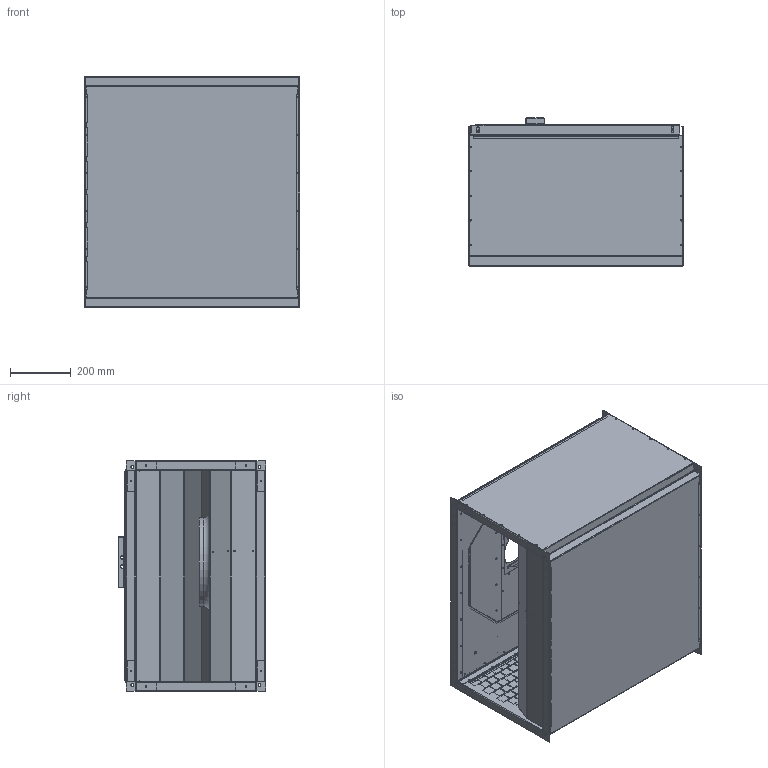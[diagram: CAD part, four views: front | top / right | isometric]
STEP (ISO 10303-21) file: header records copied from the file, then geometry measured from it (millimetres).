
FILE_DESCRIPTION (( 'STEP AP203' ), '1' );
FILE_NAME ('131431-00_KVRI07040EC30.STEP', '2015-05-11T12:38:00', ( '' ), ( '' ), 'SwSTEP 2.0', 'SolidWorks 2012', '' );
FILE_SCHEMA (( 'CONFIG_CONTROL_DESIGN' ));
Products named in the file (1): 131431-00_KVRI07040EC30
Bounding box: 710 x 488.2 x 762 mm (x, y, z)
Surface area: 7071697.9 mm2 (no closed solid volume)
Topology: 0 solids, 95 shells, 1329 faces, 9101 edges, 7628 vertices
Faces by surface type: plane 858, cylinder 462, bspline 5, torus 4
Entity records: 89270 total; most frequent: CARTESIAN_POINT 18899, DIRECTION 13445, ORIENTED_EDGE 11666, EDGE_CURVE 9101, VERTEX_POINT 7628, LINE 7281, VECTOR 7281, EDGE_LOOP 3117
